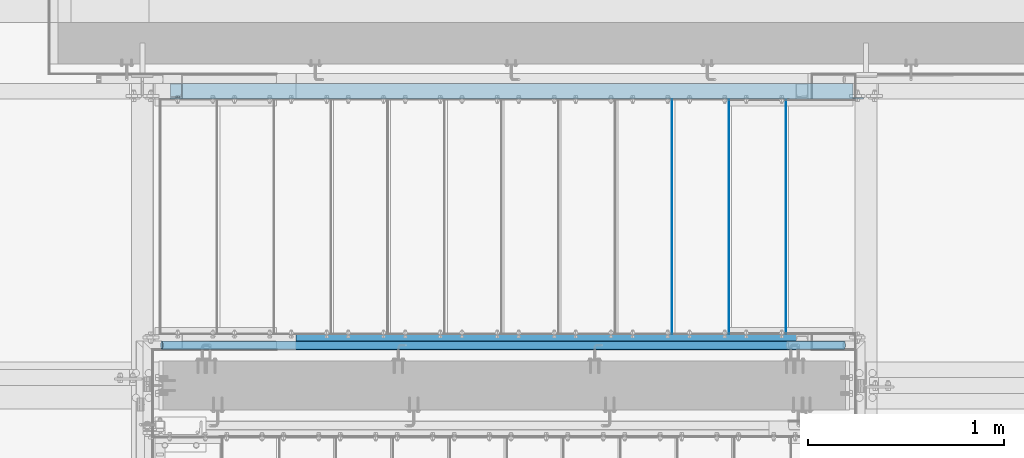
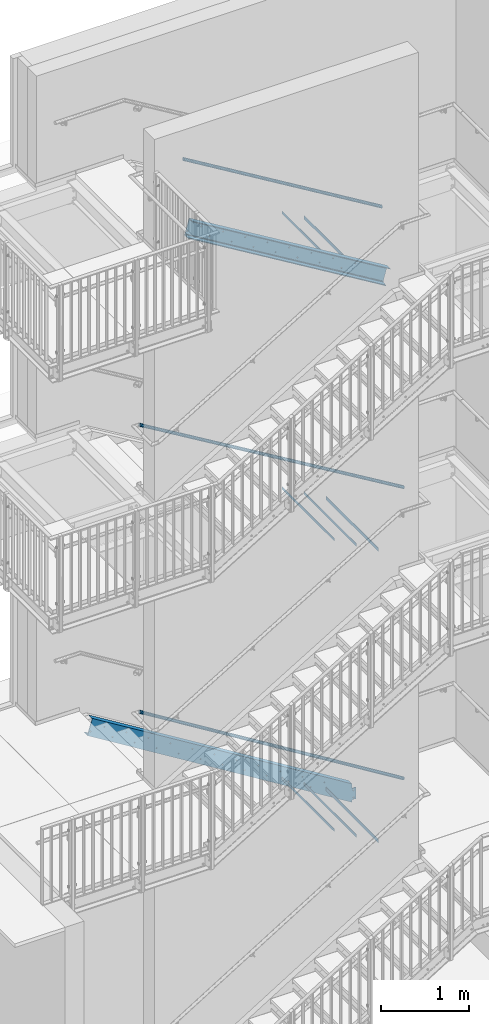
# One storey, part 37 of 410: 8 beams, 5 members, 41 openings.
"""IFC2X3 building model written with IfcOpenShell, lengths in millimetres."""

from ifc_helpers import new_model, entity, si_unit, converted_unit, point, frame, frame_2d, origin, origin_with_axes, origin_2d, origin_2d_with_axis, place, context, project, spatial, circle_curve, line_curve, trimmed, segment, composite_curve, rectangle, circle, hollow_circle, u_section, outline, extrude, clip, halfspace, material, element, save


model = new_model("IFC2X3")

# Units and contexts
model_context = context("Model", 3, precision=1e-09, world=origin_with_axes())
ifc_project = project(units=[si_unit("LENGTHUNIT", "METRE", prefix="MILLI"), si_unit("AREAUNIT", "SQUARE_METRE"), si_unit("VOLUMEUNIT", "CUBIC_METRE"), converted_unit("PLANEANGLEUNIT", "DEGREE", entity("IfcPlaneAngleMeasure", 0.01745329), si_unit("PLANEANGLEUNIT", "RADIAN"), dimensions=[0, 0, 0, 0, 0, 0, 0])], contexts=[model_context])

# Site, building, storey
site_placement = place(None, origin_with_axes())
site = spatial("IfcSite", under=ifc_project, at=site_placement, Name="mKR Teilneubau & Sanierung BA1 - Ostfildern", CompositionType="ELEMENT")
building_placement = place(site_placement, origin_with_axes())
building = spatial("IfcBuilding", under=site, at=building_placement, Name="Struktur 1", CompositionType="ELEMENT")
storey_placement = place(building_placement, origin_with_axes())
storey = spatial("IfcBuildingStorey", under=building, at=storey_placement, Name="Default Storey", CompositionType="ELEMENT", Elevation=0.0)

# Beams
ifc_material = material(Name="S235JR")
for number, where, z_axis, x_axis in (
    (1, (891.5, 18439.999999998, 6120.0), (0.0, 1.0, 0.0), (-1.0, 0.0, 0.0)),
    (2, (1181.5, 18439.999999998, 2106.956522), (0.0, 1.0, 0.0), (-1.0, 0.0, 0.0)),
    (3, (891.5, 18439.999999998, 2280.8695655), (0.0, 1.0, 0.0), (-1.0, 0.0, 0.0)),
    (4, (1181.5, 18439.999999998, -1946.8), (0.0, 1.0, 0.0), (-1.0, 0.0, 0.0)),
    (5, (891.5, 18439.999999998, -1768.0), (0.0, 1.0, 0.0), (-1.0, 0.0, 0.0)),
):
    element("IfcBeam", number, at=place(None, frame(where, z_axis=z_axis, x_axis=x_axis)), inside=storey, material=ifc_material, Name="-", ObjectType="-", context=model_context, shape_type="SweptSolid", body=[
        extrude(rectangle(XDim=3.0, YDim=40.0, at=origin_2d()), origin(), (0.0, 0.0, -1.0), 1200.0),
    ])

# Member, openings
member_1_placement = place(None, frame((1918.435682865, 18461.399999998, -2363.262627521), z_axis=(-0.851214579, 0.0, 0.524817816), x_axis=(0.0, 1.0, 0.0)))
member_1 = element("IfcMember", 6, at=member_1_placement, inside=storey, material=ifc_material, Name="-", ObjectType="-", context=model_context, shape_type="Clipping", body=[
    clip(extrude(u_section(Depth=220.0, FlangeWidth=80.0, WebThickness=9.0, FlangeThickness=12.5, FilletRadius=12.5, EdgeRadius=6.0, FlangeSlope=4.574, at=frame_2d((18.6, 0.0))), origin(), (0.0, 0.0, 1.0), 4446.272996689), halfspace(frame((-18461.399999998, -587.407461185, 4345.621808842), z_axis=(0.0, -0.272750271, -0.962084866), x_axis=(1.0, 0.0, 0.0)), True)),
])
opening_1_placement = place(member_1_placement, frame((-121.5, 57.579650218, -199.716085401), z_axis=(-1.0, 0.0, 0.0), x_axis=(0.0, -0.851214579, 0.524817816)))
element("IfcOpeningElement", 7, at=opening_1_placement, cuts=member_1, ObjectType="Opening", context=model_context, shape_type="SweptSolid", body=[
    extrude(outline(composite_curve([segment(trimmed(line_curve((0.0, 0.0), (1.0, 0.0), 396.500732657), [point((0.0, 0.0))], [point((396.500732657, 0.0))], True, "CARTESIAN"), True, "CONTINUOUS"), segment(trimmed(line_curve((396.500732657, 0.0), (0.0, 1.0), 243.217631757), [point((396.500732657, 0.0))], [point((396.500732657, 243.217631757))], True, "CARTESIAN"), True, "CONTINUOUS"), segment(trimmed(line_curve((396.500732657, 243.217631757), (-1.0, 0.0), 110.011907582), [point((396.500732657, 243.217631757))], [point((286.488825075, 243.217631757))], True, "CARTESIAN"), True, "CONTINUOUS"), segment(trimmed(circle_curve(frame_2d((286.488825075, 238.216631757), x_axis=(1.0, 0.0)), 5.001), [point((286.488825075, 243.217631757))], [point((281.487825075, 238.216631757))], True, "CARTESIAN"), True, "CONTINUOUS"), segment(trimmed(line_curve((281.487825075, 238.216631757), (0.0, -1.0), 47.047), [point((281.487825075, 238.216631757))], [point((281.487825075, 191.169631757))], True, "CARTESIAN"), True, "CONTINUOUS"), segment(trimmed(line_curve((281.487825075, 191.169631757), (-1.0, 0.0), 159.996000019), [point((281.487825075, 191.169631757))], [point((121.491825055, 191.169631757))], True, "CARTESIAN"), True, "CONTINUOUS"), segment(trimmed(line_curve((121.491825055, 191.169631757), (-1.9213e-05, 1.0), 47.047096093), [point((121.491825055, 191.169631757))], [point((121.490921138, 238.216727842))], True, "CARTESIAN"), True, "CONTINUOUS"), segment(trimmed(circle_curve(frame_2d((116.489921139, 238.216631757), x_axis=(1.0, 0.0)), 5.001), [point((121.490921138, 238.216727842))], [point((116.489921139, 243.217631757))], True, "CARTESIAN"), True, "CONTINUOUS"), segment(trimmed(line_curve((116.489921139, 243.217631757), (-1.0, 0.0), 116.489921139), [point((116.489921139, 243.217631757))], [point((0.0, 243.217631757))], True, "CARTESIAN"), True, "CONTINUOUS"), segment(trimmed(line_curve((0.0, 243.217631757), (0.0, -1.0), 243.217631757), [point((0.0, 243.217631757))], [point((0.0, 0.0))], True, "CARTESIAN"), True, "CONTINUOUS")], self_intersect=False)), origin(), (0.0, 0.0, -1.0), 280.2),
])
opening_2_placement = place(member_1_placement, frame((-21.9, 49.652632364, 2775.301498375), z_axis=(1.0, 0.0, 0.0), x_axis=(0.0, 0.524817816, 0.851214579)))
element("IfcOpeningElement", 8, at=opening_2_placement, cuts=member_1, ObjectType="Opening", context=model_context, shape_type="SweptSolid", body=[
    extrude(circle(Radius=7.001, at=origin_2d_with_axis()), origin(), (0.0, 0.0, 1.0), 10.0),
])
opening_3_placement = place(member_1_placement, frame((-21.9, -44.814574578, 2962.772527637), z_axis=(1.0, 0.0, 0.0), x_axis=(0.0, 0.524817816, 0.851214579)))
element("IfcOpeningElement", 9, at=opening_3_placement, cuts=member_1, ObjectType="Opening", context=model_context, shape_type="SweptSolid", body=[
    extrude(circle(Radius=7.001, at=origin_2d_with_axis()), origin(), (0.0, 0.0, 1.0), 10.0),
])
opening_4_placement = place(member_1_placement, frame((-21.9, 49.652632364, 3115.991151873), z_axis=(1.0, 0.0, 0.0), x_axis=(0.0, 0.524817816, 0.851214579)))
element("IfcOpeningElement", 10, at=opening_4_placement, cuts=member_1, ObjectType="Opening", context=model_context, shape_type="SweptSolid", body=[
    extrude(circle(Radius=7.001, at=origin_2d_with_axis()), origin(), (0.0, 0.0, 1.0), 10.0),
])
opening_5_placement = place(member_1_placement, frame((-21.9, -44.814574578, 1940.703567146), z_axis=(1.0, 0.0, 0.0), x_axis=(0.0, 0.524817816, 0.851214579)))
element("IfcOpeningElement", 11, at=opening_5_placement, cuts=member_1, ObjectType="Opening", context=model_context, shape_type="SweptSolid", body=[
    extrude(circle(Radius=7.001, at=origin_2d_with_axis()), origin(), (0.0, 0.0, 1.0), 10.0),
])
opening_6_placement = place(member_1_placement, frame((-21.9, 49.652632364, 3456.68080537), z_axis=(1.0, 0.0, 0.0), x_axis=(0.0, 0.524817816, 0.851214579)))
element("IfcOpeningElement", 12, at=opening_6_placement, cuts=member_1, ObjectType="Opening", context=model_context, shape_type="SweptSolid", body=[
    extrude(circle(Radius=7.001, at=origin_2d_with_axis()), origin(), (0.0, 0.0, 1.0), 10.0),
])
opening_7_placement = place(member_1_placement, frame((-21.9, -44.814574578, 3644.151834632), z_axis=(1.0, 0.0, 0.0), x_axis=(0.0, 0.524817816, 0.851214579)))
element("IfcOpeningElement", 13, at=opening_7_placement, cuts=member_1, ObjectType="Opening", context=model_context, shape_type="SweptSolid", body=[
    extrude(circle(Radius=7.001, at=origin_2d_with_axis()), origin(), (0.0, 0.0, 1.0), 10.0),
])
opening_8_placement = place(member_1_placement, frame((-21.9, -44.814574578, 918.634606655), z_axis=(1.0, 0.0, 0.0), x_axis=(0.0, 0.524817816, 0.851214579)))
element("IfcOpeningElement", 14, at=opening_8_placement, cuts=member_1, ObjectType="Opening", context=model_context, shape_type="SweptSolid", body=[
    extrude(circle(Radius=7.001, at=origin_2d_with_axis()), origin(), (0.0, 0.0, 1.0), 10.0),
])
opening_9_placement = place(member_1_placement, frame((-21.9, -44.814574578, 1259.324260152), z_axis=(1.0, 0.0, 0.0), x_axis=(0.0, 0.524817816, 0.851214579)))
element("IfcOpeningElement", 15, at=opening_9_placement, cuts=member_1, ObjectType="Opening", context=model_context, shape_type="SweptSolid", body=[
    extrude(circle(Radius=7.001, at=origin_2d_with_axis()), origin(), (0.0, 0.0, 1.0), 10.0),
])
opening_10_placement = place(member_1_placement, frame((-21.9, 49.652632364, 3797.370458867), z_axis=(1.0, 0.0, 0.0), x_axis=(0.0, 0.524817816, 0.851214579)))
element("IfcOpeningElement", 16, at=opening_10_placement, cuts=member_1, ObjectType="Opening", context=model_context, shape_type="SweptSolid", body=[
    extrude(circle(Radius=7.001, at=origin_2d_with_axis()), origin(), (0.0, 0.0, 1.0), 10.0),
])
opening_11_placement = place(member_1_placement, frame((-21.9, -44.814574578, 3303.462181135), z_axis=(1.0, 0.0, 0.0), x_axis=(0.0, 0.524817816, 0.851214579)))
element("IfcOpeningElement", 17, at=opening_11_placement, cuts=member_1, ObjectType="Opening", context=model_context, shape_type="SweptSolid", body=[
    extrude(circle(Radius=7.001, at=origin_2d_with_axis()), origin(), (0.0, 0.0, 1.0), 10.0),
])
opening_12_placement = place(member_1_placement, frame((-21.9, 49.652632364, 1753.232537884), z_axis=(1.0, 0.0, 0.0), x_axis=(0.0, 0.524817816, 0.851214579)))
element("IfcOpeningElement", 18, at=opening_12_placement, cuts=member_1, ObjectType="Opening", context=model_context, shape_type="SweptSolid", body=[
    extrude(circle(Radius=7.001, at=origin_2d_with_axis()), origin(), (0.0, 0.0, 1.0), 10.0),
])
opening_13_placement = place(member_1_placement, frame((-21.9, 49.652632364, 2093.922191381), z_axis=(1.0, 0.0, 0.0), x_axis=(0.0, 0.524817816, 0.851214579)))
element("IfcOpeningElement", 19, at=opening_13_placement, cuts=member_1, ObjectType="Opening", context=model_context, shape_type="SweptSolid", body=[
    extrude(circle(Radius=7.001, at=origin_2d_with_axis()), origin(), (0.0, 0.0, 1.0), 10.0),
])
opening_14_placement = place(member_1_placement, frame((-21.9, 49.652632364, 1071.85323089), z_axis=(1.0, 0.0, 0.0), x_axis=(0.0, 0.524817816, 0.851214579)))
element("IfcOpeningElement", 20, at=opening_14_placement, cuts=member_1, ObjectType="Opening", context=model_context, shape_type="SweptSolid", body=[
    extrude(circle(Radius=7.001, at=origin_2d_with_axis()), origin(), (0.0, 0.0, 1.0), 10.0),
])
opening_15_placement = place(member_1_placement, frame((-21.9, 49.652632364, 2434.611844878), z_axis=(1.0, 0.0, 0.0), x_axis=(0.0, 0.524817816, 0.851214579)))
element("IfcOpeningElement", 21, at=opening_15_placement, cuts=member_1, ObjectType="Opening", context=model_context, shape_type="SweptSolid", body=[
    extrude(circle(Radius=7.001, at=origin_2d_with_axis()), origin(), (0.0, 0.0, 1.0), 10.0),
])
opening_16_placement = place(member_1_placement, frame((-21.9, -44.814574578, 3984.841488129), z_axis=(1.0, 0.0, 0.0), x_axis=(0.0, 0.524817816, 0.851214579)))
element("IfcOpeningElement", 22, at=opening_16_placement, cuts=member_1, ObjectType="Opening", context=model_context, shape_type="SweptSolid", body=[
    extrude(circle(Radius=7.001, at=origin_2d_with_axis()), origin(), (0.0, 0.0, 1.0), 10.0),
])
opening_17_placement = place(member_1_placement, frame((-21.9, 49.652632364, 4138.060112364), z_axis=(1.0, 0.0, 0.0), x_axis=(0.0, 0.524817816, 0.851214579)))
element("IfcOpeningElement", 23, at=opening_17_placement, cuts=member_1, ObjectType="Opening", context=model_context, shape_type="SweptSolid", body=[
    extrude(circle(Radius=7.001, at=origin_2d_with_axis()), origin(), (0.0, 0.0, 1.0), 10.0),
])
opening_18_placement = place(member_1_placement, frame((-21.9, -44.814574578, 577.944953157), z_axis=(1.0, 0.0, 0.0), x_axis=(0.0, 0.524817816, 0.851214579)))
element("IfcOpeningElement", 24, at=opening_18_placement, cuts=member_1, ObjectType="Opening", context=model_context, shape_type="SweptSolid", body=[
    extrude(circle(Radius=7.001, at=origin_2d_with_axis()), origin(), (0.0, 0.0, 1.0), 10.0),
])
opening_19_placement = place(member_1_placement, frame((-21.9, 49.652632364, 731.163577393), z_axis=(1.0, 0.0, 0.0), x_axis=(0.0, 0.524817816, 0.851214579)))
element("IfcOpeningElement", 25, at=opening_19_placement, cuts=member_1, ObjectType="Opening", context=model_context, shape_type="SweptSolid", body=[
    extrude(circle(Radius=7.001, at=origin_2d_with_axis()), origin(), (0.0, 0.0, 1.0), 10.0),
])
opening_20_placement = place(member_1_placement, frame((-21.9, -44.814574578, 1600.013913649), z_axis=(1.0, 0.0, 0.0), x_axis=(0.0, 0.524817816, 0.851214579)))
element("IfcOpeningElement", 26, at=opening_20_placement, cuts=member_1, ObjectType="Opening", context=model_context, shape_type="SweptSolid", body=[
    extrude(circle(Radius=7.001, at=origin_2d_with_axis()), origin(), (0.0, 0.0, 1.0), 10.0),
])
opening_21_placement = place(member_1_placement, frame((-21.9, 49.652632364, 1412.542884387), z_axis=(1.0, 0.0, 0.0), x_axis=(0.0, 0.524817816, 0.851214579)))
element("IfcOpeningElement", 27, at=opening_21_placement, cuts=member_1, ObjectType="Opening", context=model_context, shape_type="SweptSolid", body=[
    extrude(circle(Radius=7.001, at=origin_2d_with_axis()), origin(), (0.0, 0.0, 1.0), 10.0),
])
opening_22_placement = place(member_1_placement, frame((-21.9, -44.814574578, 2622.08287414), z_axis=(1.0, 0.0, 0.0), x_axis=(0.0, 0.524817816, 0.851214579)))
element("IfcOpeningElement", 28, at=opening_22_placement, cuts=member_1, ObjectType="Opening", context=model_context, shape_type="SweptSolid", body=[
    extrude(circle(Radius=7.001, at=origin_2d_with_axis()), origin(), (0.0, 0.0, 1.0), 10.0),
])
opening_23_placement = place(member_1_placement, frame((-21.9, -44.814574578, 2281.393220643), z_axis=(1.0, 0.0, 0.0), x_axis=(0.0, 0.524817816, 0.851214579)))
element("IfcOpeningElement", 29, at=opening_23_placement, cuts=member_1, ObjectType="Opening", context=model_context, shape_type="SweptSolid", body=[
    extrude(circle(Radius=7.001, at=origin_2d_with_axis()), origin(), (0.0, 0.0, 1.0), 10.0),
])
opening_24_placement = place(member_1_placement, frame((-11.9, -39.893772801, 121.382057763), z_axis=(-1.0, 0.0, 0.0), x_axis=(0.0, 0.524817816, 0.851214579)))
element("IfcOpeningElement", 30, at=opening_24_placement, cuts=member_1, ObjectType="Opening", context=model_context, shape_type="SweptSolid", body=[
    extrude(circle(Radius=9.001, at=frame_2d((0.0, 100.0), x_axis=(1.0, 0.0))), origin(), (0.0, 0.0, 1.0), 10.0),
])
opening_25_placement = place(member_1_placement, frame((-11.9, -39.893772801, 121.382057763), z_axis=(-1.0, 0.0, 0.0), x_axis=(0.0, 0.524817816, 0.851214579)))
element("IfcOpeningElement", 31, at=opening_25_placement, cuts=member_1, ObjectType="Opening", context=model_context, shape_type="SweptSolid", body=[
    extrude(circle(Radius=9.001, at=origin_2d_with_axis()), origin(), (0.0, 0.0, 1.0), 10.0),
])

member_2_placement = place(None, frame((-1284.189532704, 17218.599999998, 7467.586142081), z_axis=(-0.856187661, 0.0, 0.516664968), x_axis=(0.0, -1.0, 0.0)))
member_2 = element("IfcMember", 32, at=member_2_placement, inside=storey, material=ifc_material, Name="-", ObjectType="-", context=model_context, shape_type="Clipping", body=[
    clip(clip(extrude(u_section(Depth=220.0, FlangeWidth=80.0, WebThickness=9.0, FlangeThickness=12.5, FilletRadius=12.5, EdgeRadius=6.0, FlangeSlope=4.574, at=frame_2d((18.6, 0.0))), origin(), (0.0, 0.0, -1.0), 3519.753965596), halfspace(frame((17218.599999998, -6530.079416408, -2083.928153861), z_axis=(0.0, 0.268153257, -0.963376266), x_axis=(-1.0, 0.0, 0.0)), True)), halfspace(frame((17218.599999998, -5742.579952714, -4913.124787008), z_axis=(0.0, -0.268153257, 0.963376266), x_axis=(1.0, 0.0, 0.0)), True)),
])
opening_26_placement = place(member_2_placement, frame((-21.9, 44.826404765, -795.420596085), z_axis=(1.0, 0.0, 0.0), x_axis=(0.0, -0.516664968, 0.856187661)))
element("IfcOpeningElement", 33, at=opening_26_placement, cuts=member_2, ObjectType="Opening", context=model_context, shape_type="SweptSolid", body=[
    extrude(circle(Radius=7.001, at=origin_2d_with_axis()), origin(), (0.0, 0.0, 1.0), 10.0),
])
opening_27_placement = place(member_2_placement, frame((-21.9, 44.826404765, -2150.26376044), z_axis=(1.0, 0.0, 0.0), x_axis=(0.0, -0.516664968, 0.856187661)))
element("IfcOpeningElement", 34, at=opening_27_placement, cuts=member_2, ObjectType="Opening", context=model_context, shape_type="SweptSolid", body=[
    extrude(circle(Radius=7.001, at=origin_2d_with_axis()), origin(), (0.0, 0.0, 1.0), 10.0),
])
opening_28_placement = place(member_2_placement, frame((-21.9, -48.173289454, -1318.728399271), z_axis=(1.0, 0.0, 0.0), x_axis=(0.0, -0.516664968, 0.856187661)))
element("IfcOpeningElement", 35, at=opening_28_placement, cuts=member_2, ObjectType="Opening", context=model_context, shape_type="SweptSolid", body=[
    extrude(circle(Radius=7.001, at=origin_2d_with_axis()), origin(), (0.0, 0.0, 1.0), 10.0),
])
opening_29_placement = place(member_2_placement, frame((-21.9, -48.173289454, -641.306817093), z_axis=(1.0, 0.0, 0.0), x_axis=(0.0, -0.516664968, 0.856187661)))
element("IfcOpeningElement", 36, at=opening_29_placement, cuts=member_2, ObjectType="Opening", context=model_context, shape_type="SweptSolid", body=[
    extrude(circle(Radius=7.001, at=origin_2d_with_axis()), origin(), (0.0, 0.0, 1.0), 10.0),
])
opening_30_placement = place(member_2_placement, frame((-21.9, 44.826404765, -1472.842178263), z_axis=(1.0, 0.0, 0.0), x_axis=(0.0, -0.516664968, 0.856187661)))
element("IfcOpeningElement", 37, at=opening_30_placement, cuts=member_2, ObjectType="Opening", context=model_context, shape_type="SweptSolid", body=[
    extrude(circle(Radius=7.001, at=origin_2d_with_axis()), origin(), (0.0, 0.0, 1.0), 10.0),
])
opening_31_placement = place(member_2_placement, frame((-21.9, -48.173289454, -2334.860772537), z_axis=(1.0, 0.0, 0.0), x_axis=(0.0, -0.516664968, 0.856187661)))
element("IfcOpeningElement", 38, at=opening_31_placement, cuts=member_2, ObjectType="Opening", context=model_context, shape_type="SweptSolid", body=[
    extrude(circle(Radius=7.001, at=origin_2d_with_axis()), origin(), (0.0, 0.0, 1.0), 10.0),
])
opening_32_placement = place(member_2_placement, frame((-21.9, 44.826404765, -1134.131387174), z_axis=(1.0, 0.0, 0.0), x_axis=(0.0, -0.516664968, 0.856187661)))
element("IfcOpeningElement", 39, at=opening_32_placement, cuts=member_2, ObjectType="Opening", context=model_context, shape_type="SweptSolid", body=[
    extrude(circle(Radius=7.001, at=origin_2d_with_axis()), origin(), (0.0, 0.0, 1.0), 10.0),
])
opening_33_placement = place(member_2_placement, frame((-21.9, -48.173289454, -2673.571563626), z_axis=(1.0, 0.0, 0.0), x_axis=(0.0, -0.516664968, 0.856187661)))
element("IfcOpeningElement", 40, at=opening_33_placement, cuts=member_2, ObjectType="Opening", context=model_context, shape_type="SweptSolid", body=[
    extrude(circle(Radius=7.001, at=origin_2d_with_axis()), origin(), (0.0, 0.0, 1.0), 10.0),
])
opening_34_placement = place(member_2_placement, frame((-21.9, 44.826404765, -456.709804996), z_axis=(1.0, 0.0, 0.0), x_axis=(0.0, -0.516664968, 0.856187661)))
element("IfcOpeningElement", 41, at=opening_34_placement, cuts=member_2, ObjectType="Opening", context=model_context, shape_type="SweptSolid", body=[
    extrude(circle(Radius=7.001, at=origin_2d_with_axis()), origin(), (0.0, 0.0, 1.0), 10.0),
])
opening_35_placement = place(member_2_placement, frame((-21.9, 44.826404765, -1811.552969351), z_axis=(1.0, 0.0, 0.0), x_axis=(0.0, -0.516664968, 0.856187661)))
element("IfcOpeningElement", 42, at=opening_35_placement, cuts=member_2, ObjectType="Opening", context=model_context, shape_type="SweptSolid", body=[
    extrude(circle(Radius=7.001, at=origin_2d_with_axis()), origin(), (0.0, 0.0, 1.0), 10.0),
])
opening_36_placement = place(member_2_placement, frame((-21.9, -48.173289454, -1996.149981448), z_axis=(1.0, 0.0, 0.0), x_axis=(0.0, -0.516664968, 0.856187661)))
element("IfcOpeningElement", 43, at=opening_36_placement, cuts=member_2, ObjectType="Opening", context=model_context, shape_type="SweptSolid", body=[
    extrude(circle(Radius=7.001, at=origin_2d_with_axis()), origin(), (0.0, 0.0, 1.0), 10.0),
])
opening_37_placement = place(member_2_placement, frame((-21.9, -48.173289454, -980.017608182), z_axis=(1.0, 0.0, 0.0), x_axis=(0.0, -0.516664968, 0.856187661)))
element("IfcOpeningElement", 44, at=opening_37_placement, cuts=member_2, ObjectType="Opening", context=model_context, shape_type="SweptSolid", body=[
    extrude(circle(Radius=7.001, at=origin_2d_with_axis()), origin(), (0.0, 0.0, 1.0), 10.0),
])
opening_38_placement = place(member_2_placement, frame((-21.9, 44.826404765, -2488.974551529), z_axis=(1.0, 0.0, 0.0), x_axis=(0.0, -0.516664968, 0.856187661)))
element("IfcOpeningElement", 45, at=opening_38_placement, cuts=member_2, ObjectType="Opening", context=model_context, shape_type="SweptSolid", body=[
    extrude(circle(Radius=7.001, at=origin_2d_with_axis()), origin(), (0.0, 0.0, 1.0), 10.0),
])
opening_39_placement = place(member_2_placement, frame((-21.9, -48.173289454, -302.596026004), z_axis=(1.0, 0.0, 0.0), x_axis=(0.0, -0.516664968, 0.856187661)))
element("IfcOpeningElement", 46, at=opening_39_placement, cuts=member_2, ObjectType="Opening", context=model_context, shape_type="SweptSolid", body=[
    extrude(circle(Radius=7.001, at=origin_2d_with_axis()), origin(), (0.0, 0.0, 1.0), 10.0),
])
opening_40_placement = place(member_2_placement, frame((-21.9, -48.173289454, -1657.43919036), z_axis=(1.0, 0.0, 0.0), x_axis=(0.0, -0.516664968, 0.856187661)))
element("IfcOpeningElement", 47, at=opening_40_placement, cuts=member_2, ObjectType="Opening", context=model_context, shape_type="SweptSolid", body=[
    extrude(circle(Radius=7.001, at=origin_2d_with_axis()), origin(), (0.0, 0.0, 1.0), 10.0),
])
opening_41_placement = place(member_2_placement, frame((-21.9, 44.826404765, -2827.685342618), z_axis=(1.0, 0.0, 0.0), x_axis=(0.0, -0.516664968, 0.856187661)))
element("IfcOpeningElement", 48, at=opening_41_placement, cuts=member_2, ObjectType="Opening", context=model_context, shape_type="SweptSolid", body=[
    extrude(circle(Radius=7.001, at=origin_2d_with_axis()), origin(), (0.0, 0.0, 1.0), 10.0),
])

# Beams
for number, where, z_axis, x_axis in (
    (49, (1472.0, 18437.999999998, -2120.6), (0.0, 1.0, 0.0), (-1.0, 0.0, 0.0)),
    (50, (1472.0, 18437.999999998, 1938.0434785), (0.0, 1.0, 0.0), (-1.0, 0.0, 0.0)),
    (51, (1182.0, 18437.999999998, 5950.0), (0.0, 1.0, 0.0), (-1.0, 0.0, 0.0)),
):
    element("IfcBeam", number, at=place(None, frame(where, z_axis=z_axis, x_axis=x_axis)), inside=storey, material=ifc_material, Name="-", ObjectType="-", context=model_context, shape_type="SweptSolid", body=[
        extrude(rectangle(XDim=4.0, YDim=50.0, at=origin_2d()), origin(), (0.0, 0.0, -1.0), 1196.0),
    ])

# Members
member_3_placement = place(None, frame((-1157.545578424, 17185.0, 8344.87864639), z_axis=(-0.856187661, 0.0, 0.516664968), x_axis=(0.0, -1.0, 0.0)))
element("IfcMember", 52, at=member_3_placement, inside=storey, Name="-", ObjectType="-", context=model_context, shape_type="Clipping", body=[
    clip(clip(extrude(hollow_circle(Radius=21.2, WallThickness=3.2, at=origin_2d()), origin(), (0.0, 0.0, -1.0), 3110.637175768), halfspace(frame((17185.0, -7437.758904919, -2101.402823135), z_axis=(0.0, 0.268153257, -0.963376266), x_axis=(-1.0, 0.0, 0.0)), True)), halfspace(frame((17185.0, -6650.25999424, -4930.597469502), z_axis=(0.0, -0.268153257, 0.963376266), x_axis=(1.0, 0.0, 0.0)), True)),
])
member_4_placement = place(None, frame((1795.809914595, 17185.000022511, 2725.843803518), z_axis=(0.857606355, 0.0, -0.51430666), x_axis=(0.0, 1.0, 0.0)))
element("IfcMember", 53, at=member_4_placement, inside=storey, Name="-", ObjectType="-", context=model_context, shape_type="Clipping", body=[
    clip(clip(extrude(hollow_circle(Radius=21.2, WallThickness=3.2, at=origin_2d()), origin(), (0.0, 0.0, -1.0), 4120.023161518), halfspace(frame((-17185.000022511, -4045.048455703, -2968.979534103), z_axis=(0.0, 0.266827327, 0.963744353), x_axis=(1.0, 0.0, 0.0)), True)), halfspace(frame((-17185.000022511, -3001.570989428, 799.920471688), z_axis=(0.0, -0.266827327, -0.963744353), x_axis=(-1.0, 0.0, 0.0)), True)),
])
member_5_placement = place(None, frame((-1737.535603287, 17185.0, 845.15429384), z_axis=(-0.851214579, 0.0, 0.524817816), x_axis=(0.0, -1.0, 0.0)))
element("IfcMember", 54, at=member_5_placement, inside=storey, Name="-", ObjectType="-", context=model_context, shape_type="Clipping", body=[
    clip(clip(extrude(hollow_circle(Radius=21.2, WallThickness=3.2, at=origin_2d()), origin(), (0.0, 0.0, -1.0), 4150.600563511), halfspace(frame((17185.0, -318.158466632, -121.361575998), z_axis=(0.0, 0.272750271, -0.962084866), x_axis=(-1.0, 0.0, 0.0)), True)), halfspace(frame((17185.0, 754.640719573, -3905.496626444), z_axis=(0.0, -0.272750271, 0.962084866), x_axis=(1.0, 0.0, 0.0)), True)),
])

save(model, "model.ifc")
